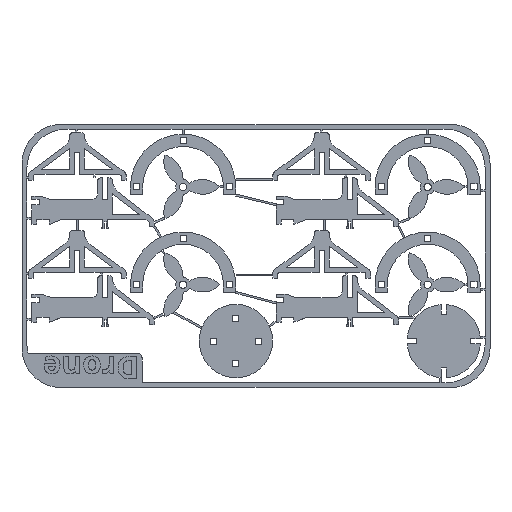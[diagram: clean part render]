
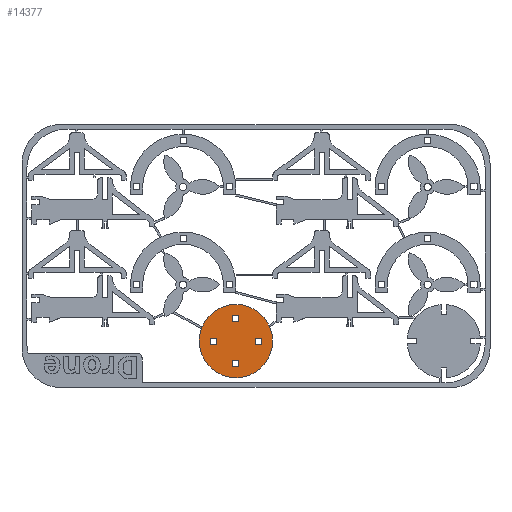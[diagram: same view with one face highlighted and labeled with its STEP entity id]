
A CAD part, top view. The second image highlights one B-rep face of the part: STEP entity #14377.
In plain terms, the highlighted planar face has unit normal (0, 0, 1).
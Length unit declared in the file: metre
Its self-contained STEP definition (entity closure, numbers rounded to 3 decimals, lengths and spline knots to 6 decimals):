
#676=PLANE('',#15755);
#2024=LINE('',#23368,#3711);
#2028=LINE('',#23376,#3715);
#2031=LINE('',#23382,#3718);
#2034=LINE('',#23389,#3721);
#2038=LINE('',#23397,#3725);
#2041=LINE('',#23403,#3728);
#2044=LINE('',#23410,#3731);
#2048=LINE('',#23418,#3735);
#2051=LINE('',#23424,#3738);
#2054=LINE('',#23431,#3741);
#2058=LINE('',#23439,#3745);
#2061=LINE('',#23445,#3748);
#2063=LINE('',#23448,#3750);
#2065=LINE('',#23451,#3752);
#2067=LINE('',#23454,#3754);
#2069=LINE('',#23457,#3756);
#3711=VECTOR('',#18615,1.);
#3715=VECTOR('',#18621,1.);
#3718=VECTOR('',#18626,1.);
#3721=VECTOR('',#18631,1.);
#3725=VECTOR('',#18637,1.);
#3728=VECTOR('',#18642,1.);
#3731=VECTOR('',#18647,1.);
#3735=VECTOR('',#18653,1.);
#3738=VECTOR('',#18658,1.);
#3741=VECTOR('',#18663,1.);
#3745=VECTOR('',#18669,1.);
#3748=VECTOR('',#18674,1.);
#3750=VECTOR('',#18678,1.);
#3752=VECTOR('',#18682,1.);
#3754=VECTOR('',#18686,1.);
#3756=VECTOR('',#18690,1.);
#7192=ORIENTED_EDGE('',*,*,#9800,.F.);
#7193=ORIENTED_EDGE('',*,*,#9804,.T.);
#7194=ORIENTED_EDGE('',*,*,#9807,.T.);
#7195=ORIENTED_EDGE('',*,*,#9815,.F.);
#7196=ORIENTED_EDGE('',*,*,#9790,.F.);
#7197=ORIENTED_EDGE('',*,*,#9794,.F.);
#7198=ORIENTED_EDGE('',*,*,#9797,.T.);
#7199=ORIENTED_EDGE('',*,*,#9813,.T.);
#7200=ORIENTED_EDGE('',*,*,#9780,.F.);
#7201=ORIENTED_EDGE('',*,*,#9784,.F.);
#7202=ORIENTED_EDGE('',*,*,#9787,.T.);
#7203=ORIENTED_EDGE('',*,*,#9811,.T.);
#7204=ORIENTED_EDGE('',*,*,#9770,.F.);
#7205=ORIENTED_EDGE('',*,*,#9774,.F.);
#7206=ORIENTED_EDGE('',*,*,#9777,.T.);
#7207=ORIENTED_EDGE('',*,*,#9809,.T.);
#7208=ORIENTED_EDGE('',*,*,#9816,.T.);
#9770=EDGE_CURVE('',#11335,#11336,#2024,.T.);
#9774=EDGE_CURVE('',#11338,#11335,#2028,.T.);
#9777=EDGE_CURVE('',#11338,#11340,#2031,.T.);
#9780=EDGE_CURVE('',#11343,#11344,#2034,.T.);
#9784=EDGE_CURVE('',#11346,#11343,#2038,.T.);
#9787=EDGE_CURVE('',#11346,#11348,#2041,.T.);
#9790=EDGE_CURVE('',#11351,#11352,#2044,.T.);
#9794=EDGE_CURVE('',#11354,#11351,#2048,.T.);
#9797=EDGE_CURVE('',#11354,#11356,#2051,.T.);
#9800=EDGE_CURVE('',#11359,#11360,#2054,.T.);
#9804=EDGE_CURVE('',#11359,#11362,#2058,.T.);
#9807=EDGE_CURVE('',#11362,#11364,#2061,.T.);
#9809=EDGE_CURVE('',#11340,#11336,#2063,.T.);
#9811=EDGE_CURVE('',#11348,#11344,#2065,.T.);
#9813=EDGE_CURVE('',#11356,#11352,#2067,.T.);
#9815=EDGE_CURVE('',#11360,#11364,#2069,.T.);
#9816=EDGE_CURVE('',#11365,#11365,#11901,.T.);
#11335=VERTEX_POINT('',#23367);
#11336=VERTEX_POINT('',#23369);
#11338=VERTEX_POINT('',#23375);
#11340=VERTEX_POINT('',#23381);
#11343=VERTEX_POINT('',#23388);
#11344=VERTEX_POINT('',#23390);
#11346=VERTEX_POINT('',#23396);
#11348=VERTEX_POINT('',#23402);
#11351=VERTEX_POINT('',#23409);
#11352=VERTEX_POINT('',#23411);
#11354=VERTEX_POINT('',#23417);
#11356=VERTEX_POINT('',#23423);
#11359=VERTEX_POINT('',#23430);
#11360=VERTEX_POINT('',#23432);
#11362=VERTEX_POINT('',#23438);
#11364=VERTEX_POINT('',#23444);
#11365=VERTEX_POINT('',#23460);
#11901=CIRCLE('',#15753,0.015);
#12597=EDGE_LOOP('',(#7192,#7193,#7194,#7195));
#12598=EDGE_LOOP('',(#7196,#7197,#7198,#7199));
#12599=EDGE_LOOP('',(#7200,#7201,#7202,#7203));
#12600=EDGE_LOOP('',(#7204,#7205,#7206,#7207));
#12601=EDGE_LOOP('',(#7208));
#13450=FACE_BOUND('',#12597,.T.);
#13451=FACE_BOUND('',#12598,.T.);
#13452=FACE_BOUND('',#12599,.T.);
#13453=FACE_BOUND('',#12600,.T.);
#13454=FACE_BOUND('',#12601,.T.);
#14377=ADVANCED_FACE('',(#13450,#13451,#13452,#13453,#13454),#676,.T.);
#15753=AXIS2_PLACEMENT_3D('',#23459,#18693,#18694);
#15755=AXIS2_PLACEMENT_3D('',#23463,#18697,#18698);
#18615=DIRECTION('',(0.,1.,0.));
#18621=DIRECTION('',(1.,0.,0.));
#18626=DIRECTION('',(0.,1.,0.));
#18631=DIRECTION('',(1.,0.,0.));
#18637=DIRECTION('',(0.,-1.,0.));
#18642=DIRECTION('',(1.,0.,0.));
#18647=DIRECTION('',(0.,-1.,0.));
#18653=DIRECTION('',(-1.,0.,0.));
#18658=DIRECTION('',(0.,-1.,0.));
#18663=DIRECTION('',(0.,1.,0.));
#18669=DIRECTION('',(-1.,0.,0.));
#18674=DIRECTION('',(0.,1.,0.));
#18678=DIRECTION('',(1.,0.,0.));
#18682=DIRECTION('',(0.,-1.,0.));
#18686=DIRECTION('',(-1.,0.,0.));
#18690=DIRECTION('',(-1.,0.,0.));
#18693=DIRECTION('',(0.,0.,1.));
#18694=DIRECTION('',(0.,-1.,0.));
#18697=DIRECTION('',(0.,0.,1.));
#18698=DIRECTION('',(-1.,0.,0.));
#23367=CARTESIAN_POINT('',(0.033733,0.117057,-0.043634));
#23368=CARTESIAN_POINT('',(0.033733,0.118307,-0.043634));
#23369=CARTESIAN_POINT('',(0.033733,0.119557,-0.043634));
#23375=CARTESIAN_POINT('',(0.031233,0.117057,-0.043634));
#23376=CARTESIAN_POINT('',(0.032483,0.117057,-0.043634));
#23381=CARTESIAN_POINT('',(0.031233,0.119557,-0.043634));
#23382=CARTESIAN_POINT('',(0.031233,0.118307,-0.043634));
#23388=CARTESIAN_POINT('',(0.022035,0.126255,-0.043634));
#23389=CARTESIAN_POINT('',(0.023285,0.126255,-0.043634));
#23390=CARTESIAN_POINT('',(0.024535,0.126255,-0.043634));
#23396=CARTESIAN_POINT('',(0.022035,0.128755,-0.043634));
#23397=CARTESIAN_POINT('',(0.022035,0.127505,-0.043634));
#23402=CARTESIAN_POINT('',(0.024535,0.128755,-0.043634));
#23403=CARTESIAN_POINT('',(0.023285,0.128755,-0.043634));
#23409=CARTESIAN_POINT('',(0.031233,0.137953,-0.043634));
#23410=CARTESIAN_POINT('',(0.031233,0.136703,-0.043634));
#23411=CARTESIAN_POINT('',(0.031233,0.135453,-0.043634));
#23417=CARTESIAN_POINT('',(0.033733,0.137953,-0.043634));
#23418=CARTESIAN_POINT('',(0.032483,0.137953,-0.043634));
#23423=CARTESIAN_POINT('',(0.033733,0.135453,-0.043634));
#23424=CARTESIAN_POINT('',(0.033733,0.136703,-0.043634));
#23430=CARTESIAN_POINT('',(0.04293,0.126255,-0.043634));
#23431=CARTESIAN_POINT('',(0.04293,0.127505,-0.043634));
#23432=CARTESIAN_POINT('',(0.04293,0.128755,-0.043634));
#23438=CARTESIAN_POINT('',(0.04043,0.126255,-0.043634));
#23439=CARTESIAN_POINT('',(0.04168,0.126255,-0.043634));
#23444=CARTESIAN_POINT('',(0.04043,0.128755,-0.043634));
#23445=CARTESIAN_POINT('',(0.04043,0.127505,-0.043634));
#23448=CARTESIAN_POINT('',(0.032483,0.119557,-0.043634));
#23451=CARTESIAN_POINT('',(0.024535,0.127505,-0.043634));
#23454=CARTESIAN_POINT('',(0.032483,0.135453,-0.043634));
#23457=CARTESIAN_POINT('',(0.04168,0.128755,-0.043634));
#23459=CARTESIAN_POINT('',(0.032483,0.127505,-0.043634));
#23460=CARTESIAN_POINT('',(0.032483,0.112505,-0.043634));
#23463=CARTESIAN_POINT('',(0.10453,0.136613,-0.043634));
